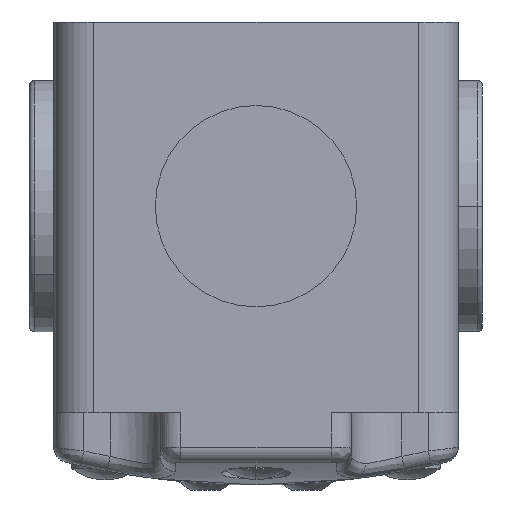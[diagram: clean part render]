
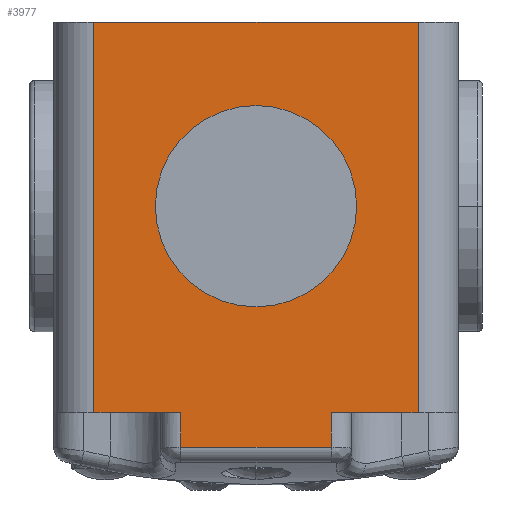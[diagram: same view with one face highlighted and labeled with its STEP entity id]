
A CAD part, left-side view. The second image highlights one B-rep face of the part: STEP entity #3977.
In plain terms, the highlighted planar face has unit normal (-1, 0, 0).
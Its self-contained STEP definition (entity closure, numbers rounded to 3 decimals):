
#2956 = VERTEX_POINT ( 'NONE', #12142 ) ;
#2958 = EDGE_CURVE ( 'NONE', #2956, #2959, #12141, .T. ) ;
#2959 = VERTEX_POINT ( 'NONE', #12136 ) ;
#3584 = VERTEX_POINT ( 'NONE', #13861 ) ;
#3586 = EDGE_CURVE ( 'NONE', #3584, #3587, #13860, .T. ) ;
#3587 = VERTEX_POINT ( 'NONE', #13856 ) ;
#3940 = VERTEX_POINT ( 'NONE', #14902 ) ;
#3943 = EDGE_CURVE ( 'NONE', #3944, #3940, #14901, .T. ) ;
#3944 = VERTEX_POINT ( 'NONE', #14897 ) ;
#3959 = ORIENTED_EDGE ( 'NONE', *, *, #3960, .F. ) ;
#3960 = EDGE_CURVE ( 'NONE', #3587, #3989, #14934, .T. ) ;
#3961 = ORIENTED_EDGE ( 'NONE', *, *, #3586, .F. ) ;
#3962 = ORIENTED_EDGE ( 'NONE', *, *, #3975, .T. ) ;
#3963 = ORIENTED_EDGE ( 'NONE', *, *, #3943, .T. ) ;
#3964 = ORIENTED_EDGE ( 'NONE', *, *, #3966, .F. ) ;
#3966 = EDGE_CURVE ( 'NONE', #3982, #3940, #14930, .T. ) ;
#3967 = EDGE_LOOP ( 'NONE', ( #3968, #3970 ) ) ;
#3968 = ORIENTED_EDGE ( 'NONE', *, *, #3969, .F. ) ;
#3969 = EDGE_CURVE ( 'NONE', #2959, #2956, #14926, .T. ) ;
#3970 = ORIENTED_EDGE ( 'NONE', *, *, #2958, .F. ) ;
#3975 = EDGE_CURVE ( 'NONE', #3584, #3944, #14908, .T. ) ;
#3977 = ADVANCED_FACE ( 'NONE', ( #14904, #14903 ), #14965, .F. ) ;
#3978 = EDGE_LOOP ( 'NONE', ( #3980, #3984, #3987, #3959, #3961, #3962, #3963, #3964 ) ) ;
#3980 = ORIENTED_EDGE ( 'NONE', *, *, #3981, .T. ) ;
#3981 = EDGE_CURVE ( 'NONE', #3982, #3983, #14960, .T. ) ;
#3982 = VERTEX_POINT ( 'NONE', #14956 ) ;
#3983 = VERTEX_POINT ( 'NONE', #14955 ) ;
#3984 = ORIENTED_EDGE ( 'NONE', *, *, #3985, .T. ) ;
#3985 = EDGE_CURVE ( 'NONE', #3983, #3986, #14954, .T. ) ;
#3986 = VERTEX_POINT ( 'NONE', #14950 ) ;
#3987 = ORIENTED_EDGE ( 'NONE', *, *, #3988, .F. ) ;
#3988 = EDGE_CURVE ( 'NONE', #3989, #3986, #14949, .T. ) ;
#3989 = VERTEX_POINT ( 'NONE', #14945 ) ;
#12136 = CARTESIAN_POINT ( 'NONE',  ( -149.4, -10., 2. ) ) ;
#12137 = DIRECTION ( 'NONE',  ( 0., -1., 0. ) ) ;
#12138 = DIRECTION ( 'NONE',  ( -1., 0., 0. ) ) ;
#12139 = CARTESIAN_POINT ( 'NONE',  ( -149.4, 0., 2. ) ) ;
#12140 = AXIS2_PLACEMENT_3D ( 'NONE', #12139, #12138, #12137 ) ;
#12141 = CIRCLE ( 'NONE', #12140, 10. ) ;
#12142 = CARTESIAN_POINT ( 'NONE',  ( -149.4, 10., 2. ) ) ;
#13856 = CARTESIAN_POINT ( 'NONE',  ( -149.4, -16.1, 20.3 ) ) ;
#13857 = DIRECTION ( 'NONE',  ( 0., -1., 0. ) ) ;
#13858 = VECTOR ( 'NONE', #13857, 1000. ) ;
#13859 = CARTESIAN_POINT ( 'NONE',  ( -149.4, 0., 20.3 ) ) ;
#13860 = LINE ( 'NONE', #13859, #13858 ) ;
#13861 = CARTESIAN_POINT ( 'NONE',  ( -149.4, 16.1, 20.3 ) ) ;
#14897 = CARTESIAN_POINT ( 'NONE',  ( -149.4, 16.1, -18.5 ) ) ;
#14898 = DIRECTION ( 'NONE',  ( 0., -1., 0. ) ) ;
#14899 = VECTOR ( 'NONE', #14898, 1000. ) ;
#14900 = CARTESIAN_POINT ( 'NONE',  ( -149.4, 0., -18.5 ) ) ;
#14901 = LINE ( 'NONE', #14900, #14899 ) ;
#14902 = CARTESIAN_POINT ( 'NONE',  ( -149.4, 7.5, -18.5 ) ) ;
#14903 = FACE_BOUND ( 'NONE', #3967, .T. ) ;
#14904 = FACE_OUTER_BOUND ( 'NONE', #3978, .T. ) ;
#14905 = DIRECTION ( 'NONE',  ( 0., 0., -1. ) ) ;
#14906 = VECTOR ( 'NONE', #14905, 1000. ) ;
#14907 = CARTESIAN_POINT ( 'NONE',  ( -149.4, 16.1, 20.3 ) ) ;
#14908 = LINE ( 'NONE', #14907, #14906 ) ;
#14922 = DIRECTION ( 'NONE',  ( 0., -1., 0. ) ) ;
#14923 = DIRECTION ( 'NONE',  ( -1., 0., 0. ) ) ;
#14924 = CARTESIAN_POINT ( 'NONE',  ( -149.4, 0., 2. ) ) ;
#14925 = AXIS2_PLACEMENT_3D ( 'NONE', #14924, #14923, #14922 ) ;
#14926 = CIRCLE ( 'NONE', #14925, 10. ) ;
#14927 = DIRECTION ( 'NONE',  ( 0., 0., 1. ) ) ;
#14928 = VECTOR ( 'NONE', #14927, 1000. ) ;
#14929 = CARTESIAN_POINT ( 'NONE',  ( -149.4, 7.5, -25.7 ) ) ;
#14930 = LINE ( 'NONE', #14929, #14928 ) ;
#14931 = DIRECTION ( 'NONE',  ( 0., 0., -1. ) ) ;
#14932 = VECTOR ( 'NONE', #14931, 1000. ) ;
#14933 = CARTESIAN_POINT ( 'NONE',  ( -149.4, -16.1, 20.3 ) ) ;
#14934 = LINE ( 'NONE', #14933, #14932 ) ;
#14945 = CARTESIAN_POINT ( 'NONE',  ( -149.4, -16.1, -18.5 ) ) ;
#14946 = DIRECTION ( 'NONE',  ( 0., 1., 0. ) ) ;
#14947 = VECTOR ( 'NONE', #14946, 1000. ) ;
#14948 = CARTESIAN_POINT ( 'NONE',  ( -149.4, 0., -18.5 ) ) ;
#14949 = LINE ( 'NONE', #14948, #14947 ) ;
#14950 = CARTESIAN_POINT ( 'NONE',  ( -149.4, -7.5, -18.5 ) ) ;
#14951 = DIRECTION ( 'NONE',  ( 0., 0., 1. ) ) ;
#14952 = VECTOR ( 'NONE', #14951, 1000. ) ;
#14953 = CARTESIAN_POINT ( 'NONE',  ( -149.4, -7.5, -25.7 ) ) ;
#14954 = LINE ( 'NONE', #14953, #14952 ) ;
#14955 = CARTESIAN_POINT ( 'NONE',  ( -149.4, -7.5, -21.965 ) ) ;
#14956 = CARTESIAN_POINT ( 'NONE',  ( -149.4, 7.5, -21.965 ) ) ;
#14957 = DIRECTION ( 'NONE',  ( 0., -1., 0. ) ) ;
#14958 = VECTOR ( 'NONE', #14957, 1000. ) ;
#14959 = CARTESIAN_POINT ( 'NONE',  ( -149.4, 0., -21.965 ) ) ;
#14960 = LINE ( 'NONE', #14959, #14958 ) ;
#14961 = DIRECTION ( 'NONE',  ( 0., 1., 0. ) ) ;
#14962 = DIRECTION ( 'NONE',  ( 1., 0., 0. ) ) ;
#14963 = AXIS2_PLACEMENT_3D ( 'NONE', #14964, #14962, #14961 ) ;
#14964 = CARTESIAN_POINT ( 'NONE',  ( -149.4, 0., 20.3 ) ) ;
#14965 = PLANE ( 'NONE',  #14963 ) ;
